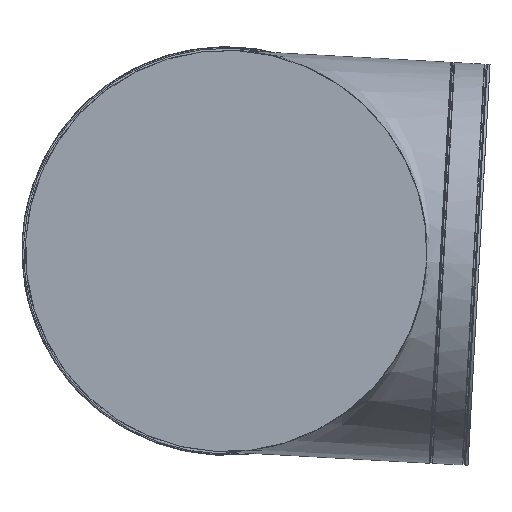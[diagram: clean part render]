
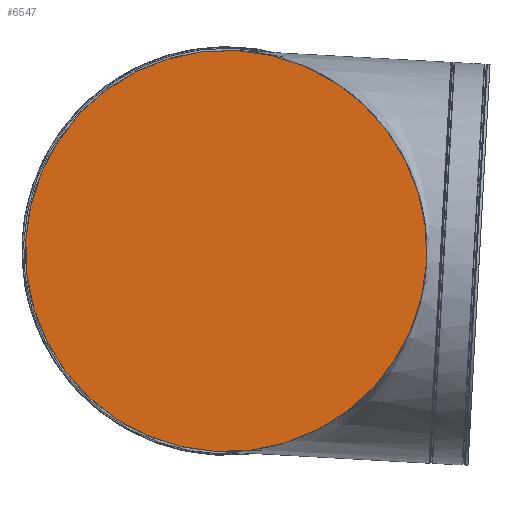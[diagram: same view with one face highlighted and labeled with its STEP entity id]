
A CAD part, front view. The second image highlights one B-rep face of the part: STEP entity #6547.
In plain terms, the highlighted planar face has unit normal (0, -1, 0).
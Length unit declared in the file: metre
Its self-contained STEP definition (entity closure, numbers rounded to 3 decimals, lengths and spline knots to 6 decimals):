
#33=PLANE('',#7892);
#306=CIRCLE('',#7825,0.075);
#1356=ORIENTED_EDGE('',*,*,#3083,.F.);
#3083=EDGE_CURVE('NONE',#4131,#4131,#306,.F.);
#4131=VERTEX_POINT('',#11377);
#5630=EDGE_LOOP('',(#1356));
#6069=FACE_BOUND('',#5630,.T.);
#6547=ADVANCED_FACE('NONE',(#6069),#33,.T.);
#7825=AXIS2_PLACEMENT_3D('',#11376,#8224,#8225);
#7892=AXIS2_PLACEMENT_3D('',#13367,#8422,#8423);
#8224=DIRECTION('',(0.,-1.,0.));
#8225=DIRECTION('',(-0.998,0.,0.055));
#8422=DIRECTION('',(0.,-1.,0.));
#8423=DIRECTION('',(-0.998,0.,0.055));
#11376=CARTESIAN_POINT('',(0.,0.0993,0.));
#11377=CARTESIAN_POINT('',(-0.074887,0.0993,0.004118));
#13367=CARTESIAN_POINT('',(-0.073838,0.0993,0.004061));
